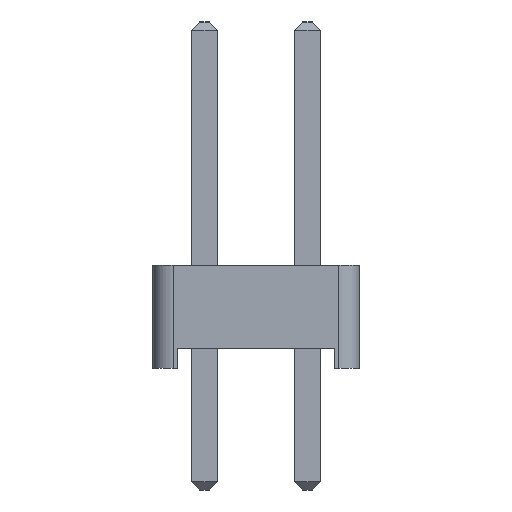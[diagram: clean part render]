
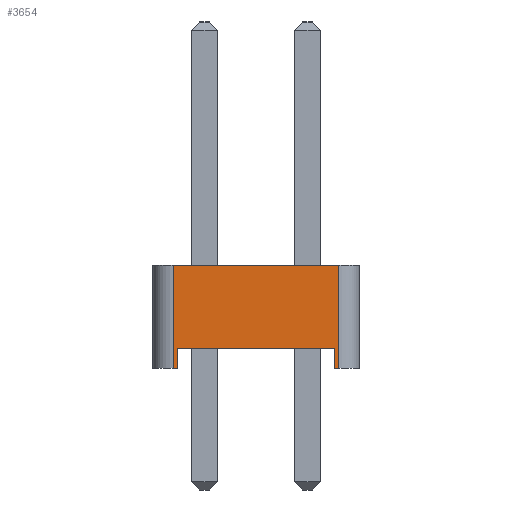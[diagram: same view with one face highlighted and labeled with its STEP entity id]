
A CAD part, left-side view. The second image highlights one B-rep face of the part: STEP entity #3654.
In plain terms, the highlighted planar face has unit normal (-1, 0, 0).
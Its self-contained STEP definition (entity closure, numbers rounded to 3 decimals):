
#3394 = VERTEX_POINT('',#3395);
#3395 = CARTESIAN_POINT('',(-1.27,2.04,0.));
#3403 = PLANE('',#3404);
#3404 = AXIS2_PLACEMENT_3D('',#3405,#3406,#3407);
#3405 = CARTESIAN_POINT('',(0.,0.,0.));
#3406 = DIRECTION('',(-0.,-0.,-1.));
#3407 = DIRECTION('',(-1.,0.,0.));
#3419 = CYLINDRICAL_SURFACE('',#3420,0.5);
#3420 = AXIS2_PLACEMENT_3D('',#3421,#3422,#3423);
#3421 = CARTESIAN_POINT('',(-0.77,2.04,0.));
#3422 = DIRECTION('',(0.,0.,1.));
#3423 = DIRECTION('',(0.,1.,0.));
#3521 = VERTEX_POINT('',#3522);
#3522 = CARTESIAN_POINT('',(-1.27,1.94,0.));
#3536 = PLANE('',#3537);
#3537 = AXIS2_PLACEMENT_3D('',#3538,#3539,#3540);
#3538 = CARTESIAN_POINT('',(1.27,1.94,0.));
#3539 = DIRECTION('',(0.,-1.,0.));
#3540 = DIRECTION('',(-1.,0.,0.));
#3548 = EDGE_CURVE('',#3521,#3394,#3549,.T.);
#3549 = SURFACE_CURVE('',#3550,(#3554,#3561),.PCURVE_S1.);
#3550 = LINE('',#3551,#3552);
#3551 = CARTESIAN_POINT('',(-1.27,-2.54,0.));
#3552 = VECTOR('',#3553,1.);
#3553 = DIRECTION('',(0.,1.,0.));
#3554 = PCURVE('',#3403,#3555);
#3555 = DEFINITIONAL_REPRESENTATION('',(#3556),#3560);
#3556 = LINE('',#3557,#3558);
#3557 = CARTESIAN_POINT('',(1.27,-2.54));
#3558 = VECTOR('',#3559,1.);
#3559 = DIRECTION('',(0.,1.));
#3560 = ( GEOMETRIC_REPRESENTATION_CONTEXT(2) 
PARAMETRIC_REPRESENTATION_CONTEXT() REPRESENTATION_CONTEXT('2D SPACE',''
  ) );
#3561 = PCURVE('',#3562,#3567);
#3562 = PLANE('',#3563);
#3563 = AXIS2_PLACEMENT_3D('',#3564,#3565,#3566);
#3564 = CARTESIAN_POINT('',(-1.27,-2.54,0.));
#3565 = DIRECTION('',(-1.,0.,0.));
#3566 = DIRECTION('',(0.,1.,0.));
#3567 = DEFINITIONAL_REPRESENTATION('',(#3568),#3572);
#3568 = LINE('',#3569,#3570);
#3569 = CARTESIAN_POINT('',(0.,0.));
#3570 = VECTOR('',#3571,1.);
#3571 = DIRECTION('',(1.,0.));
#3572 = ( GEOMETRIC_REPRESENTATION_CONTEXT(2) 
PARAMETRIC_REPRESENTATION_CONTEXT() REPRESENTATION_CONTEXT('2D SPACE',''
  ) );
#3578 = EDGE_CURVE('',#3394,#3579,#3581,.T.);
#3579 = VERTEX_POINT('',#3580);
#3580 = CARTESIAN_POINT('',(-1.27,2.04,2.54));
#3581 = SURFACE_CURVE('',#3582,(#3586,#3593),.PCURVE_S1.);
#3582 = LINE('',#3583,#3584);
#3583 = CARTESIAN_POINT('',(-1.27,2.04,0.));
#3584 = VECTOR('',#3585,1.);
#3585 = DIRECTION('',(0.,0.,1.));
#3586 = PCURVE('',#3419,#3587);
#3587 = DEFINITIONAL_REPRESENTATION('',(#3588),#3592);
#3588 = LINE('',#3589,#3590);
#3589 = CARTESIAN_POINT('',(1.571,0.));
#3590 = VECTOR('',#3591,1.);
#3591 = DIRECTION('',(0.,1.));
#3592 = ( GEOMETRIC_REPRESENTATION_CONTEXT(2) 
PARAMETRIC_REPRESENTATION_CONTEXT() REPRESENTATION_CONTEXT('2D SPACE',''
  ) );
#3593 = PCURVE('',#3562,#3594);
#3594 = DEFINITIONAL_REPRESENTATION('',(#3595),#3599);
#3595 = LINE('',#3596,#3597);
#3596 = CARTESIAN_POINT('',(4.58,0.));
#3597 = VECTOR('',#3598,1.);
#3598 = DIRECTION('',(0.,-1.));
#3599 = ( GEOMETRIC_REPRESENTATION_CONTEXT(2) 
PARAMETRIC_REPRESENTATION_CONTEXT() REPRESENTATION_CONTEXT('2D SPACE',''
  ) );
#3618 = PLANE('',#3619);
#3619 = AXIS2_PLACEMENT_3D('',#3620,#3621,#3622);
#3620 = CARTESIAN_POINT('',(0.,0.,2.54));
#3621 = DIRECTION('',(-0.,-0.,-1.));
#3622 = DIRECTION('',(-1.,0.,0.));
#3654 = ADVANCED_FACE('',(#3655),#3562,.T.);
#3655 = FACE_BOUND('',#3656,.T.);
#3656 = EDGE_LOOP('',(#3657,#3687,#3715,#3736,#3737,#3738,#3761,#3789));
#3657 = ORIENTED_EDGE('',*,*,#3658,.F.);
#3658 = EDGE_CURVE('',#3659,#3661,#3663,.T.);
#3659 = VERTEX_POINT('',#3660);
#3660 = CARTESIAN_POINT('',(-1.27,-2.04,0.));
#3661 = VERTEX_POINT('',#3662);
#3662 = CARTESIAN_POINT('',(-1.27,-1.94,0.));
#3663 = SURFACE_CURVE('',#3664,(#3668,#3675),.PCURVE_S1.);
#3664 = LINE('',#3665,#3666);
#3665 = CARTESIAN_POINT('',(-1.27,-2.54,0.));
#3666 = VECTOR('',#3667,1.);
#3667 = DIRECTION('',(0.,1.,0.));
#3668 = PCURVE('',#3562,#3669);
#3669 = DEFINITIONAL_REPRESENTATION('',(#3670),#3674);
#3670 = LINE('',#3671,#3672);
#3671 = CARTESIAN_POINT('',(0.,0.));
#3672 = VECTOR('',#3673,1.);
#3673 = DIRECTION('',(1.,0.));
#3674 = ( GEOMETRIC_REPRESENTATION_CONTEXT(2) 
PARAMETRIC_REPRESENTATION_CONTEXT() REPRESENTATION_CONTEXT('2D SPACE',''
  ) );
#3675 = PCURVE('',#3676,#3681);
#3676 = PLANE('',#3677);
#3677 = AXIS2_PLACEMENT_3D('',#3678,#3679,#3680);
#3678 = CARTESIAN_POINT('',(0.,0.,0.));
#3679 = DIRECTION('',(-0.,-0.,-1.));
#3680 = DIRECTION('',(-1.,0.,0.));
#3681 = DEFINITIONAL_REPRESENTATION('',(#3682),#3686);
#3682 = LINE('',#3683,#3684);
#3683 = CARTESIAN_POINT('',(1.27,-2.54));
#3684 = VECTOR('',#3685,1.);
#3685 = DIRECTION('',(0.,1.));
#3686 = ( GEOMETRIC_REPRESENTATION_CONTEXT(2) 
PARAMETRIC_REPRESENTATION_CONTEXT() REPRESENTATION_CONTEXT('2D SPACE',''
  ) );
#3687 = ORIENTED_EDGE('',*,*,#3688,.T.);
#3688 = EDGE_CURVE('',#3659,#3689,#3691,.T.);
#3689 = VERTEX_POINT('',#3690);
#3690 = CARTESIAN_POINT('',(-1.27,-2.04,2.54));
#3691 = SURFACE_CURVE('',#3692,(#3696,#3703),.PCURVE_S1.);
#3692 = LINE('',#3693,#3694);
#3693 = CARTESIAN_POINT('',(-1.27,-2.04,0.));
#3694 = VECTOR('',#3695,1.);
#3695 = DIRECTION('',(0.,0.,1.));
#3696 = PCURVE('',#3562,#3697);
#3697 = DEFINITIONAL_REPRESENTATION('',(#3698),#3702);
#3698 = LINE('',#3699,#3700);
#3699 = CARTESIAN_POINT('',(0.5,0.));
#3700 = VECTOR('',#3701,1.);
#3701 = DIRECTION('',(0.,-1.));
#3702 = ( GEOMETRIC_REPRESENTATION_CONTEXT(2) 
PARAMETRIC_REPRESENTATION_CONTEXT() REPRESENTATION_CONTEXT('2D SPACE',''
  ) );
#3703 = PCURVE('',#3704,#3709);
#3704 = CYLINDRICAL_SURFACE('',#3705,0.5);
#3705 = AXIS2_PLACEMENT_3D('',#3706,#3707,#3708);
#3706 = CARTESIAN_POINT('',(-0.77,-2.04,0.));
#3707 = DIRECTION('',(0.,0.,1.));
#3708 = DIRECTION('',(0.,-1.,0.));
#3709 = DEFINITIONAL_REPRESENTATION('',(#3710),#3714);
#3710 = LINE('',#3711,#3712);
#3711 = CARTESIAN_POINT('',(-1.571,0.));
#3712 = VECTOR('',#3713,1.);
#3713 = DIRECTION('',(-0.,1.));
#3714 = ( GEOMETRIC_REPRESENTATION_CONTEXT(2) 
PARAMETRIC_REPRESENTATION_CONTEXT() REPRESENTATION_CONTEXT('2D SPACE',''
  ) );
#3715 = ORIENTED_EDGE('',*,*,#3716,.T.);
#3716 = EDGE_CURVE('',#3689,#3579,#3717,.T.);
#3717 = SURFACE_CURVE('',#3718,(#3722,#3729),.PCURVE_S1.);
#3718 = LINE('',#3719,#3720);
#3719 = CARTESIAN_POINT('',(-1.27,-2.54,2.54));
#3720 = VECTOR('',#3721,1.);
#3721 = DIRECTION('',(0.,1.,0.));
#3722 = PCURVE('',#3562,#3723);
#3723 = DEFINITIONAL_REPRESENTATION('',(#3724),#3728);
#3724 = LINE('',#3725,#3726);
#3725 = CARTESIAN_POINT('',(0.,-2.54));
#3726 = VECTOR('',#3727,1.);
#3727 = DIRECTION('',(1.,0.));
#3728 = ( GEOMETRIC_REPRESENTATION_CONTEXT(2) 
PARAMETRIC_REPRESENTATION_CONTEXT() REPRESENTATION_CONTEXT('2D SPACE',''
  ) );
#3729 = PCURVE('',#3618,#3730);
#3730 = DEFINITIONAL_REPRESENTATION('',(#3731),#3735);
#3731 = LINE('',#3732,#3733);
#3732 = CARTESIAN_POINT('',(1.27,-2.54));
#3733 = VECTOR('',#3734,1.);
#3734 = DIRECTION('',(0.,1.));
#3735 = ( GEOMETRIC_REPRESENTATION_CONTEXT(2) 
PARAMETRIC_REPRESENTATION_CONTEXT() REPRESENTATION_CONTEXT('2D SPACE',''
  ) );
#3736 = ORIENTED_EDGE('',*,*,#3578,.F.);
#3737 = ORIENTED_EDGE('',*,*,#3548,.F.);
#3738 = ORIENTED_EDGE('',*,*,#3739,.T.);
#3739 = EDGE_CURVE('',#3521,#3740,#3742,.T.);
#3740 = VERTEX_POINT('',#3741);
#3741 = CARTESIAN_POINT('',(-1.27,1.94,0.5));
#3742 = SURFACE_CURVE('',#3743,(#3747,#3754),.PCURVE_S1.);
#3743 = LINE('',#3744,#3745);
#3744 = CARTESIAN_POINT('',(-1.27,1.94,0.));
#3745 = VECTOR('',#3746,1.);
#3746 = DIRECTION('',(0.,0.,1.));
#3747 = PCURVE('',#3562,#3748);
#3748 = DEFINITIONAL_REPRESENTATION('',(#3749),#3753);
#3749 = LINE('',#3750,#3751);
#3750 = CARTESIAN_POINT('',(4.48,0.));
#3751 = VECTOR('',#3752,1.);
#3752 = DIRECTION('',(0.,-1.));
#3753 = ( GEOMETRIC_REPRESENTATION_CONTEXT(2) 
PARAMETRIC_REPRESENTATION_CONTEXT() REPRESENTATION_CONTEXT('2D SPACE',''
  ) );
#3754 = PCURVE('',#3536,#3755);
#3755 = DEFINITIONAL_REPRESENTATION('',(#3756),#3760);
#3756 = LINE('',#3757,#3758);
#3757 = CARTESIAN_POINT('',(2.54,0.));
#3758 = VECTOR('',#3759,1.);
#3759 = DIRECTION('',(0.,-1.));
#3760 = ( GEOMETRIC_REPRESENTATION_CONTEXT(2) 
PARAMETRIC_REPRESENTATION_CONTEXT() REPRESENTATION_CONTEXT('2D SPACE',''
  ) );
#3761 = ORIENTED_EDGE('',*,*,#3762,.T.);
#3762 = EDGE_CURVE('',#3740,#3763,#3765,.T.);
#3763 = VERTEX_POINT('',#3764);
#3764 = CARTESIAN_POINT('',(-1.27,-1.94,0.5));
#3765 = SURFACE_CURVE('',#3766,(#3770,#3777),.PCURVE_S1.);
#3766 = LINE('',#3767,#3768);
#3767 = CARTESIAN_POINT('',(-1.27,1.94,0.5));
#3768 = VECTOR('',#3769,1.);
#3769 = DIRECTION('',(0.,-1.,0.));
#3770 = PCURVE('',#3562,#3771);
#3771 = DEFINITIONAL_REPRESENTATION('',(#3772),#3776);
#3772 = LINE('',#3773,#3774);
#3773 = CARTESIAN_POINT('',(4.48,-0.5));
#3774 = VECTOR('',#3775,1.);
#3775 = DIRECTION('',(-1.,0.));
#3776 = ( GEOMETRIC_REPRESENTATION_CONTEXT(2) 
PARAMETRIC_REPRESENTATION_CONTEXT() REPRESENTATION_CONTEXT('2D SPACE',''
  ) );
#3777 = PCURVE('',#3778,#3783);
#3778 = PLANE('',#3779);
#3779 = AXIS2_PLACEMENT_3D('',#3780,#3781,#3782);
#3780 = CARTESIAN_POINT('',(0.,0.,0.5));
#3781 = DIRECTION('',(0.,0.,1.));
#3782 = DIRECTION('',(1.,0.,0.));
#3783 = DEFINITIONAL_REPRESENTATION('',(#3784),#3788);
#3784 = LINE('',#3785,#3786);
#3785 = CARTESIAN_POINT('',(-1.27,1.94));
#3786 = VECTOR('',#3787,1.);
#3787 = DIRECTION('',(0.,-1.));
#3788 = ( GEOMETRIC_REPRESENTATION_CONTEXT(2) 
PARAMETRIC_REPRESENTATION_CONTEXT() REPRESENTATION_CONTEXT('2D SPACE',''
  ) );
#3789 = ORIENTED_EDGE('',*,*,#3790,.F.);
#3790 = EDGE_CURVE('',#3661,#3763,#3791,.T.);
#3791 = SURFACE_CURVE('',#3792,(#3796,#3803),.PCURVE_S1.);
#3792 = LINE('',#3793,#3794);
#3793 = CARTESIAN_POINT('',(-1.27,-1.94,0.));
#3794 = VECTOR('',#3795,1.);
#3795 = DIRECTION('',(0.,0.,1.));
#3796 = PCURVE('',#3562,#3797);
#3797 = DEFINITIONAL_REPRESENTATION('',(#3798),#3802);
#3798 = LINE('',#3799,#3800);
#3799 = CARTESIAN_POINT('',(0.6,0.));
#3800 = VECTOR('',#3801,1.);
#3801 = DIRECTION('',(0.,-1.));
#3802 = ( GEOMETRIC_REPRESENTATION_CONTEXT(2) 
PARAMETRIC_REPRESENTATION_CONTEXT() REPRESENTATION_CONTEXT('2D SPACE',''
  ) );
#3803 = PCURVE('',#3804,#3809);
#3804 = PLANE('',#3805);
#3805 = AXIS2_PLACEMENT_3D('',#3806,#3807,#3808);
#3806 = CARTESIAN_POINT('',(-1.27,-1.94,0.));
#3807 = DIRECTION('',(0.,1.,0.));
#3808 = DIRECTION('',(1.,0.,0.));
#3809 = DEFINITIONAL_REPRESENTATION('',(#3810),#3814);
#3810 = LINE('',#3811,#3812);
#3811 = CARTESIAN_POINT('',(0.,0.));
#3812 = VECTOR('',#3813,1.);
#3813 = DIRECTION('',(0.,-1.));
#3814 = ( GEOMETRIC_REPRESENTATION_CONTEXT(2) 
PARAMETRIC_REPRESENTATION_CONTEXT() REPRESENTATION_CONTEXT('2D SPACE',''
  ) );
